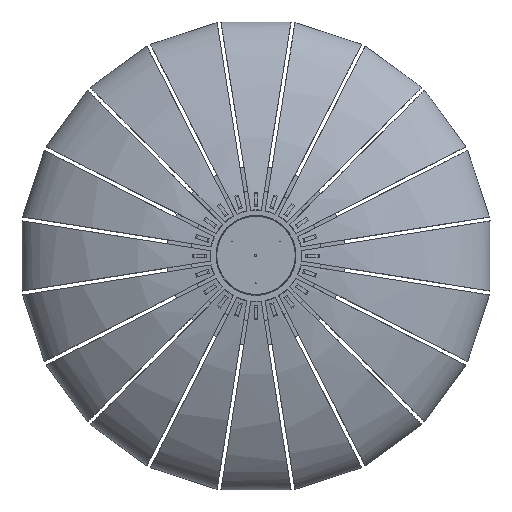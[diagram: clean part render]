
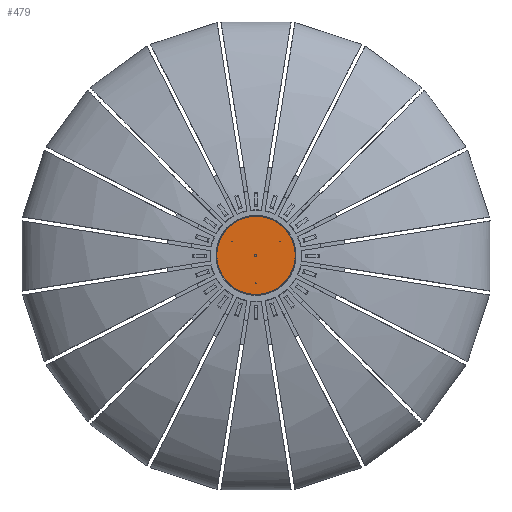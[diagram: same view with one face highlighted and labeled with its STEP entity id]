
A CAD part, top view. The second image highlights one B-rep face of the part: STEP entity #479.
In plain terms, the highlighted planar face has unit normal (0, 0, 1).
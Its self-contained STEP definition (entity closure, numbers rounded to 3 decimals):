
#479=ADVANCED_FACE('',(#914),#6276,.T.);
#914=FACE_OUTER_BOUND('',#1350,.T.);
#1350=EDGE_LOOP('',(#1823,#1824));
#1823=ORIENTED_EDGE('',*,*,#3828,.F.);
#1824=ORIENTED_EDGE('',*,*,#3832,.F.);
#3828=EDGE_CURVE('',#5613,#5612,#4844,.T.);
#3832=EDGE_CURVE('',#5612,#5613,#4848,.T.);
#4844=(
BOUNDED_CURVE()
B_SPLINE_CURVE(2,(#8190,#8191,#8192,#8193,#8194),.UNSPECIFIED.,.F.,.F.)
B_SPLINE_CURVE_WITH_KNOTS((3,2,3),(-307.876,-153.938,
0.),.UNSPECIFIED.)
CURVE()
GEOMETRIC_REPRESENTATION_ITEM()
RATIONAL_B_SPLINE_CURVE((1.,0.707,1.,0.707,1.))
REPRESENTATION_ITEM('')
);
#4848=(
BOUNDED_CURVE()
B_SPLINE_CURVE(2,(#8208,#8209,#8210,#8211,#8212),.UNSPECIFIED.,.F.,.F.)
B_SPLINE_CURVE_WITH_KNOTS((3,2,3),(-615.751,-461.813,
-307.876),.UNSPECIFIED.)
CURVE()
GEOMETRIC_REPRESENTATION_ITEM()
RATIONAL_B_SPLINE_CURVE((1.,0.707,1.,0.707,1.))
REPRESENTATION_ITEM('')
);
#5612=VERTEX_POINT('',#8166);
#5613=VERTEX_POINT('',#8167);
#6276=PLANE('',#6692);
#6692=AXIS2_PLACEMENT_3D('',#8096,#7004,$);
#7004=DIRECTION('',(0.,0.,1.));
#8096=CARTESIAN_POINT('',(-98.,-98.,1075.661));
#8166=CARTESIAN_POINT('',(98.,0.,1075.661));
#8167=CARTESIAN_POINT('',(-98.,0.,1075.661));
#8190=CARTESIAN_POINT('',(-98.,0.,1075.661));
#8191=CARTESIAN_POINT('',(-98.,98.,1075.661));
#8192=CARTESIAN_POINT('',(0.,98.,1075.661));
#8193=CARTESIAN_POINT('',(98.,98.,1075.661));
#8194=CARTESIAN_POINT('',(98.,0.,1075.661));
#8208=CARTESIAN_POINT('',(98.,0.,1075.661));
#8209=CARTESIAN_POINT('',(98.,-98.,1075.661));
#8210=CARTESIAN_POINT('',(0.,-98.,1075.661));
#8211=CARTESIAN_POINT('',(-98.,-98.,1075.661));
#8212=CARTESIAN_POINT('',(-98.,0.,1075.661));
